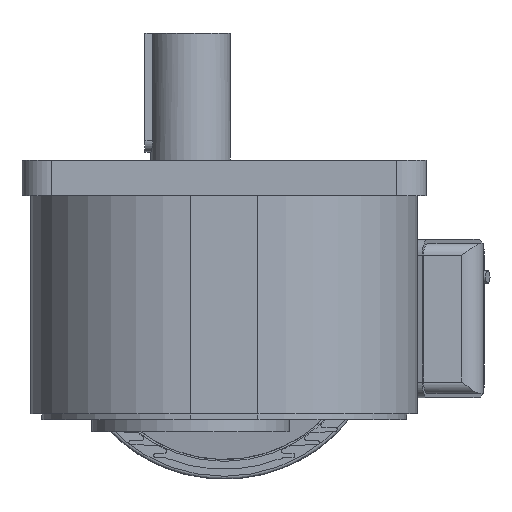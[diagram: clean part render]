
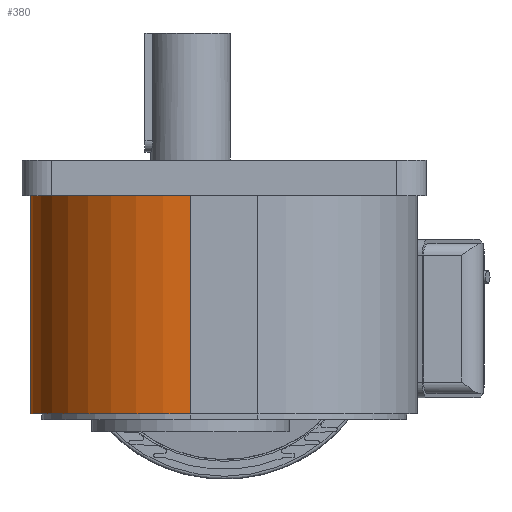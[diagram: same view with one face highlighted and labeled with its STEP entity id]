
A CAD part, left-side view. The second image highlights one B-rep face of the part: STEP entity #380.
In plain terms, the highlighted cylindrical face has radius 80.5 mm (diameter 161 mm), a partial arc.
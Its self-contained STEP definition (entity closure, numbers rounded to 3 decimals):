
#380 = ADVANCED_FACE( '', ( #1278 ), #1279, .T. );
#1278 = FACE_OUTER_BOUND( '', #3156, .T. );
#1279 = CYLINDRICAL_SURFACE( '', #3157, 80.5 );
#3156 = EDGE_LOOP( '', ( #5379, #5380, #5381, #5382 ) );
#3157 = AXIS2_PLACEMENT_3D( '', #5383, #5384, #5385 );
#5379 = ORIENTED_EDGE( '', *, *, #11299, .F. );
#5380 = ORIENTED_EDGE( '', *, *, #11300, .F. );
#5381 = ORIENTED_EDGE( '', *, *, #11163, .T. );
#5382 = ORIENTED_EDGE( '', *, *, #11301, .T. );
#5383 = CARTESIAN_POINT( '', ( -128., 0., 0. ) );
#5384 = DIRECTION( '', ( -1., 0., 0. ) );
#5385 = DIRECTION( '', ( 0., 0., -1. ) );
#11163 = EDGE_CURVE( '', #13089, #13087, #13090, .T. );
#11299 = EDGE_CURVE( '', #13318, #13319, #13320, .T. );
#11300 = EDGE_CURVE( '', #13089, #13318, #13321, .T. );
#11301 = EDGE_CURVE( '', #13087, #13319, #13322, .T. );
#13087 = VERTEX_POINT( '', #16377 );
#13089 = VERTEX_POINT( '', #16380 );
#13090 = CIRCLE( '', #16381, 80.5 );
#13318 = VERTEX_POINT( '', #16687 );
#13319 = VERTEX_POINT( '', #16688 );
#13320 = CIRCLE( '', #16689, 80.5 );
#13321 = LINE( '', #16690, #16691 );
#13322 = LINE( '', #16692, #16693 );
#16377 = CARTESIAN_POINT( '', ( -128., 0., 80.5 ) );
#16380 = CARTESIAN_POINT( '', ( -128., 80.5, 0. ) );
#16381 = AXIS2_PLACEMENT_3D( '', #26157, #26158, #26159 );
#16687 = CARTESIAN_POINT( '', ( -18., 80.5, 0. ) );
#16688 = CARTESIAN_POINT( '', ( -18., 0., 80.5 ) );
#16689 = AXIS2_PLACEMENT_3D( '', #26409, #26410, #26411 );
#16690 = CARTESIAN_POINT( '', ( -128., 80.5, 0. ) );
#16691 = VECTOR( '', #26412, 1000. );
#16692 = CARTESIAN_POINT( '', ( -128., 0., 80.5 ) );
#16693 = VECTOR( '', #26413, 1000. );
#26157 = CARTESIAN_POINT( '', ( -128., 0., 0. ) );
#26158 = DIRECTION( '', ( 1., 0., 0. ) );
#26159 = DIRECTION( '', ( 0., 0., -1. ) );
#26409 = CARTESIAN_POINT( '', ( -18., 0., 0. ) );
#26410 = DIRECTION( '', ( 1., 0., 0. ) );
#26411 = DIRECTION( '', ( 0., 0., -1. ) );
#26412 = DIRECTION( '', ( 1., 0., 0. ) );
#26413 = DIRECTION( '', ( 1., 0., 0. ) );
